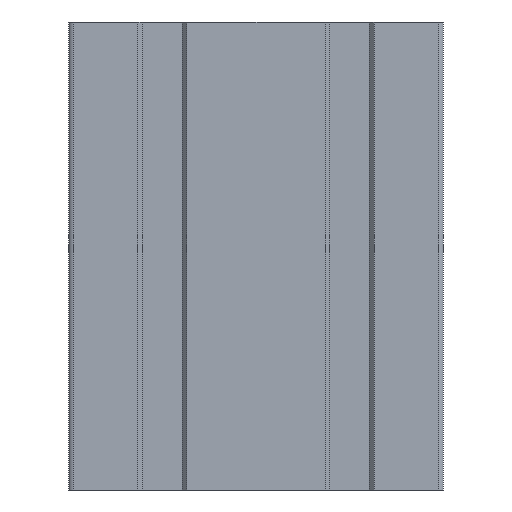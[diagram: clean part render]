
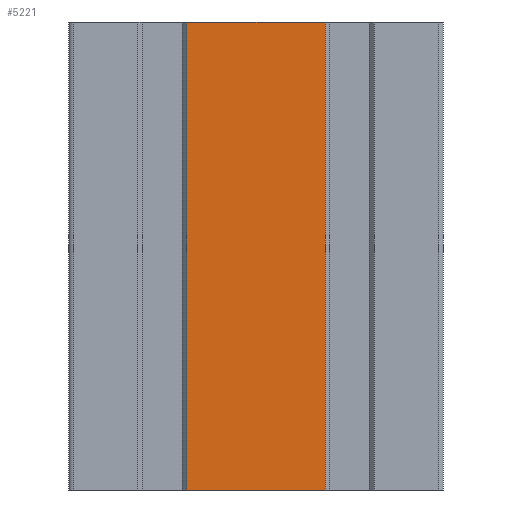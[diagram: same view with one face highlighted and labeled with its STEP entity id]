
A CAD part, front view. The second image highlights one B-rep face of the part: STEP entity #5221.
In plain terms, the highlighted planar face has unit normal (0, -1, 0).
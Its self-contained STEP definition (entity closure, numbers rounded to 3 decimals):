
#1190=CARTESIAN_POINT('',(5.25,-20.,100.0));
#1191=VERTEX_POINT('',#1190);
#1198=CARTESIAN_POINT('',(34.75,-20.,100.0));
#1199=VERTEX_POINT('',#1198);
#1200=CARTESIAN_POINT('',(34.75,-20.,100.0));
#1201=DIRECTION('',(-1.0,0.0,0.0));
#1202=VECTOR('',#1201,29.5);
#1203=LINE('',#1200,#1202);
#1204=EDGE_CURVE('',#1199,#1191,#1203,.T.);
#2265=CARTESIAN_POINT('',(34.75,-20.,0.0));
#2266=VERTEX_POINT('',#2265);
#2273=CARTESIAN_POINT('',(5.25,-20.,0.0));
#2274=VERTEX_POINT('',#2273);
#2275=CARTESIAN_POINT('',(5.25,-20.,0.0));
#2276=DIRECTION('',(1.0,0.0,0.0));
#2277=VECTOR('',#2276,29.5);
#2278=LINE('',#2275,#2277);
#2279=EDGE_CURVE('',#2274,#2266,#2278,.T.);
#4001=CARTESIAN_POINT('',(34.75,-20.,100.0));
#4002=DIRECTION('',(0.0,0.0,-1.0));
#4003=VECTOR('',#4002,100.0);
#4004=LINE('',#4001,#4003);
#4005=EDGE_CURVE('',#1199,#2266,#4004,.T.);
#5205=CARTESIAN_POINT('',(0.,-20.,0.0));
#5206=DIRECTION('',(0.0,-1.0,0.0));
#5207=DIRECTION('',(0.0,0.0,1.0));
#5208=AXIS2_PLACEMENT_3D('',#5205,#5206,#5207);
#5209=PLANE('',#5208);
#5210=ORIENTED_EDGE('',*,*,#4005,.F.);
#5211=ORIENTED_EDGE('',*,*,#1204,.T.);
#5212=CARTESIAN_POINT('',(5.25,-20.,0.0));
#5213=DIRECTION('',(0.0,0.0,1.0));
#5214=VECTOR('',#5213,100.0);
#5215=LINE('',#5212,#5214);
#5216=EDGE_CURVE('',#2274,#1191,#5215,.T.);
#5217=ORIENTED_EDGE('',*,*,#5216,.F.);
#5218=ORIENTED_EDGE('',*,*,#2279,.T.);
#5219=EDGE_LOOP('',(#5210,#5211,#5217,#5218));
#5220=FACE_OUTER_BOUND('',#5219,.T.);
#5221=ADVANCED_FACE('',(#5220),#5209,.T.);
